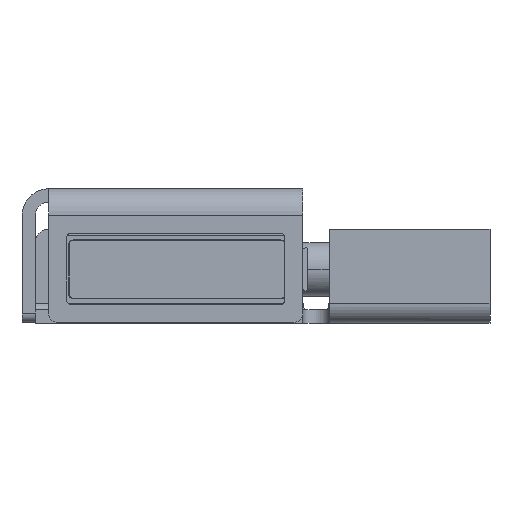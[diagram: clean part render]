
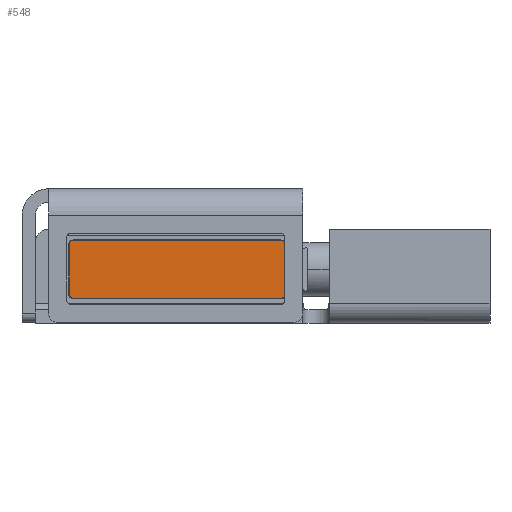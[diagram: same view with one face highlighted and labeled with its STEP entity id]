
A CAD part, left-side view. The second image highlights one B-rep face of the part: STEP entity #548.
In plain terms, the highlighted planar face has unit normal (-1, 0, 0).
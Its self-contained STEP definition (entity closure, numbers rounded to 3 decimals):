
#548 = ADVANCED_FACE( '', ( #1454 ), #1455, .T. );
#1454 = FACE_OUTER_BOUND( '', #2360, .T. );
#1455 = PLANE( '', #2361 );
#2360 = EDGE_LOOP( '', ( #5889, #5890, #5891, #5892, #5893, #5894, #5895, #5896 ) );
#2361 = AXIS2_PLACEMENT_3D( '', #5897, #5898, #5899 );
#5889 = ORIENTED_EDGE( '', *, *, #7029, .T. );
#5890 = ORIENTED_EDGE( '', *, *, #7008, .T. );
#5891 = ORIENTED_EDGE( '', *, *, #7012, .T. );
#5892 = ORIENTED_EDGE( '', *, *, #7015, .T. );
#5893 = ORIENTED_EDGE( '', *, *, #7018, .T. );
#5894 = ORIENTED_EDGE( '', *, *, #7021, .T. );
#5895 = ORIENTED_EDGE( '', *, *, #7024, .T. );
#5896 = ORIENTED_EDGE( '', *, *, #7027, .T. );
#5897 = CARTESIAN_POINT( '', ( -39.108, 19.3, 0. ) );
#5898 = DIRECTION( '', ( -1., 0., 0. ) );
#5899 = DIRECTION( '', ( 0., 0., 1. ) );
#7008 = EDGE_CURVE( '', #8855, #8853, #8856, .T. );
#7012 = EDGE_CURVE( '', #8853, #8860, #8862, .T. );
#7015 = EDGE_CURVE( '', #8860, #8865, #8867, .T. );
#7018 = EDGE_CURVE( '', #8865, #8870, #8872, .T. );
#7021 = EDGE_CURVE( '', #8870, #8875, #8877, .T. );
#7024 = EDGE_CURVE( '', #8875, #8880, #8882, .T. );
#7027 = EDGE_CURVE( '', #8880, #8885, #8887, .T. );
#7029 = EDGE_CURVE( '', #8885, #8855, #8889, .T. );
#8853 = VERTEX_POINT( '', #11552 );
#8855 = VERTEX_POINT( '', #11555 );
#8856 = LINE( '', #11556, #11557 );
#8860 = VERTEX_POINT( '', #11562 );
#8862 = CIRCLE( '', #11565, 0.9 );
#8865 = VERTEX_POINT( '', #11569 );
#8867 = LINE( '', #11572, #11573 );
#8870 = VERTEX_POINT( '', #11576 );
#8872 = CIRCLE( '', #11579, 0.9 );
#8875 = VERTEX_POINT( '', #11583 );
#8877 = LINE( '', #11586, #11587 );
#8880 = VERTEX_POINT( '', #11590 );
#8882 = CIRCLE( '', #11593, 0.9 );
#8885 = VERTEX_POINT( '', #11597 );
#8887 = LINE( '', #11600, #11601 );
#8889 = CIRCLE( '', #11603, 0.9 );
#11552 = CARTESIAN_POINT( '', ( -39.108, 19.3, 5.6 ) );
#11555 = CARTESIAN_POINT( '', ( -39.108, 19.3, -5.6 ) );
#11556 = CARTESIAN_POINT( '', ( -39.108, 19.3, -5.6 ) );
#11557 = VECTOR( '', #13486, 1. );
#11562 = CARTESIAN_POINT( '', ( -39.108, 20.2, 6.5 ) );
#11565 = AXIS2_PLACEMENT_3D( '', #13492, #13493, #13494 );
#11569 = CARTESIAN_POINT( '', ( -39.108, 66.8, 6.5 ) );
#11572 = CARTESIAN_POINT( '', ( -39.108, 20.2, 6.5 ) );
#11573 = VECTOR( '', #13497, 1. );
#11576 = CARTESIAN_POINT( '', ( -39.108, 67.7, 5.6 ) );
#11579 = AXIS2_PLACEMENT_3D( '', #13502, #13503, #13504 );
#11583 = CARTESIAN_POINT( '', ( -39.108, 67.7, -5.6 ) );
#11586 = CARTESIAN_POINT( '', ( -39.108, 67.7, 5.6 ) );
#11587 = VECTOR( '', #13507, 1. );
#11590 = CARTESIAN_POINT( '', ( -39.108, 66.8, -6.5 ) );
#11593 = AXIS2_PLACEMENT_3D( '', #13512, #13513, #13514 );
#11597 = CARTESIAN_POINT( '', ( -39.108, 20.2, -6.5 ) );
#11600 = CARTESIAN_POINT( '', ( -39.108, 66.8, -6.5 ) );
#11601 = VECTOR( '', #13517, 1. );
#11603 = AXIS2_PLACEMENT_3D( '', #13521, #13522, #13523 );
#13486 = DIRECTION( '', ( 0., 0., 1. ) );
#13492 = CARTESIAN_POINT( '', ( -39.108, 20.2, 5.6 ) );
#13493 = DIRECTION( '', ( -1., 0., 0. ) );
#13494 = DIRECTION( '', ( 0., -1., 0. ) );
#13497 = DIRECTION( '', ( 0., 1., 0. ) );
#13502 = CARTESIAN_POINT( '', ( -39.108, 66.8, 5.6 ) );
#13503 = DIRECTION( '', ( -1., 0., 0. ) );
#13504 = DIRECTION( '', ( 0., 0., 1. ) );
#13507 = DIRECTION( '', ( 0., 0., -1. ) );
#13512 = CARTESIAN_POINT( '', ( -39.108, 66.8, -5.6 ) );
#13513 = DIRECTION( '', ( -1., 0., 0. ) );
#13514 = DIRECTION( '', ( 0., 1., 0. ) );
#13517 = DIRECTION( '', ( 0., -1., 0. ) );
#13521 = CARTESIAN_POINT( '', ( -39.108, 20.2, -5.6 ) );
#13522 = DIRECTION( '', ( -1., 0., 0. ) );
#13523 = DIRECTION( '', ( 0., 0., -1. ) );
